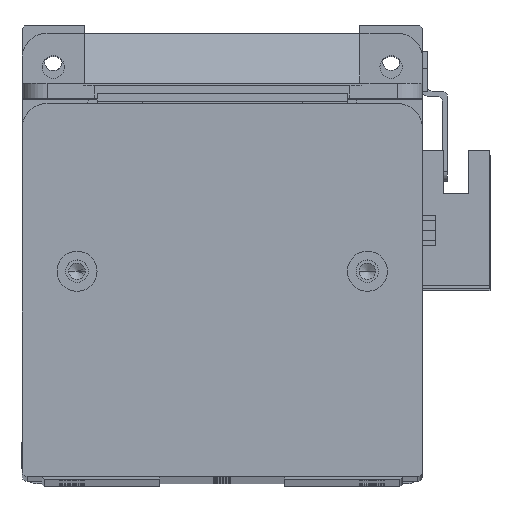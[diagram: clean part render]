
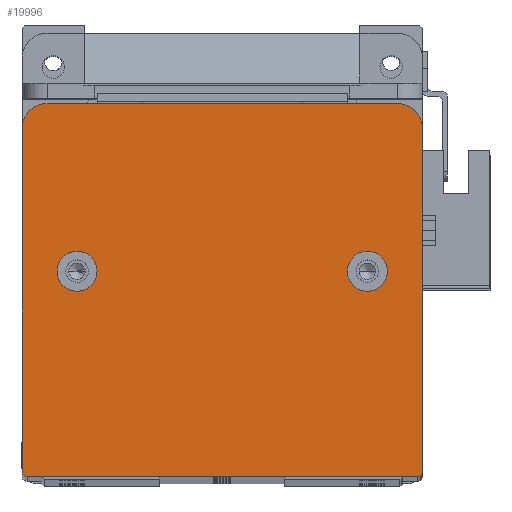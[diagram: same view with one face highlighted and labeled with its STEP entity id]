
A CAD part, top view. The second image highlights one B-rep face of the part: STEP entity #19996.
In plain terms, the highlighted planar face has unit normal (0, 0, 1).
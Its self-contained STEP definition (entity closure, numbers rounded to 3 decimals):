
#42 = DIRECTION ( 'NONE',  ( 0., 1., 0. ) ) ;
#350 = EDGE_CURVE ( 'NONE', #388, #9285, #28633, .T. ) ;
#374 = CARTESIAN_POINT ( 'NONE',  ( 0., 1., 10. ) ) ;
#388 = VERTEX_POINT ( 'NONE', #25939 ) ;
#568 = CIRCLE ( 'NONE', #9394, 4. ) ;
#768 = CIRCLE ( 'NONE', #8534, 5. ) ;
#1017 = CARTESIAN_POINT ( 'NONE',  ( 5., 74.5, 10. ) ) ;
#1295 = EDGE_CURVE ( 'NONE', #6133, #17341, #768, .T. ) ;
#2024 = DIRECTION ( 'NONE',  ( 1., 0., 0. ) ) ;
#2434 = DIRECTION ( 'NONE',  ( 1., 0., 0. ) ) ;
#2742 = DIRECTION ( 'NONE',  ( 0., 0., 1. ) ) ;
#2911 = DIRECTION ( 'NONE',  ( 0., 0., 1. ) ) ;
#3163 = EDGE_CURVE ( 'NONE', #21158, #9783, #13849, .T. ) ;
#3252 = EDGE_LOOP ( 'NONE', ( #11364, #17857, #10456, #4366, #20194, #3582, #3493, #27578 ) ) ;
#3493 = ORIENTED_EDGE ( 'NONE', *, *, #15553, .T. ) ;
#3582 = ORIENTED_EDGE ( 'NONE', *, *, #17875, .T. ) ;
#3694 = CARTESIAN_POINT ( 'NONE',  ( 79., 0., 10. ) ) ;
#4239 = CARTESIAN_POINT ( 'NONE',  ( 80., 1., 10. ) ) ;
#4314 = VERTEX_POINT ( 'NONE', #4239 ) ;
#4366 = ORIENTED_EDGE ( 'NONE', *, *, #1295, .T. ) ;
#4788 = DIRECTION ( 'NONE',  ( 0., -1., 0. ) ) ;
#5376 = CARTESIAN_POINT ( 'NONE',  ( 15., 41., 10. ) ) ;
#6029 = EDGE_CURVE ( 'NONE', #9285, #388, #568, .T. ) ;
#6133 = VERTEX_POINT ( 'NONE', #1017 ) ;
#6320 = ORIENTED_EDGE ( 'NONE', *, *, #6029, .F. ) ;
#6635 = PLANE ( 'NONE',  #20401 ) ;
#6661 = DIRECTION ( 'NONE',  ( 0., 0., 1. ) ) ;
#7307 = FACE_BOUND ( 'NONE', #17351, .T. ) ;
#7373 = FACE_OUTER_BOUND ( 'NONE', #3252, .T. ) ;
#7536 = FACE_BOUND ( 'NONE', #22024, .T. ) ;
#7648 = EDGE_CURVE ( 'NONE', #4314, #21158, #27002, .T. ) ;
#8534 = AXIS2_PLACEMENT_3D ( 'NONE', #9984, #9891, #9678 ) ;
#8676 = CARTESIAN_POINT ( 'NONE',  ( 69., 41., 10. ) ) ;
#8830 = VECTOR ( 'NONE', #4788, 1000. ) ;
#9285 = VERTEX_POINT ( 'NONE', #14934 ) ;
#9394 = AXIS2_PLACEMENT_3D ( 'NONE', #16195, #2911, #18398 ) ;
#9678 = DIRECTION ( 'NONE',  ( 1., 0., 0. ) ) ;
#9754 = DIRECTION ( 'NONE',  ( 0., 0., 1. ) ) ;
#9783 = VERTEX_POINT ( 'NONE', #10444 ) ;
#9891 = DIRECTION ( 'NONE',  ( 0., 0., 1. ) ) ;
#9984 = CARTESIAN_POINT ( 'NONE',  ( 5., 69.5, 10. ) ) ;
#10444 = CARTESIAN_POINT ( 'NONE',  ( 75., 74.5, 10. ) ) ;
#10456 = ORIENTED_EDGE ( 'NONE', *, *, #26363, .T. ) ;
#11085 = CARTESIAN_POINT ( 'NONE',  ( 80., 74.5, 10. ) ) ;
#11126 = DIRECTION ( 'NONE',  ( 0., 0., 1. ) ) ;
#11172 = CARTESIAN_POINT ( 'NONE',  ( 80., 0., 10. ) ) ;
#11293 = CIRCLE ( 'NONE', #15779, 4. ) ;
#11364 = ORIENTED_EDGE ( 'NONE', *, *, #7648, .T. ) ;
#11835 = CARTESIAN_POINT ( 'NONE',  ( 11., 41., 10. ) ) ;
#11921 = CARTESIAN_POINT ( 'NONE',  ( 0., 69.5, 10. ) ) ;
#12239 = VERTEX_POINT ( 'NONE', #24647 ) ;
#12829 = DIRECTION ( 'NONE',  ( 0., 0., 1. ) ) ;
#12836 = ORIENTED_EDGE ( 'NONE', *, *, #350, .F. ) ;
#12905 = DIRECTION ( 'NONE',  ( 1., 0., 0. ) ) ;
#13710 = AXIS2_PLACEMENT_3D ( 'NONE', #8676, #9754, #12905 ) ;
#13849 = CIRCLE ( 'NONE', #26923, 5. ) ;
#13878 = LINE ( 'NONE', #11085, #19009 ) ;
#14091 = DIRECTION ( 'NONE',  ( 1., 0., 0. ) ) ;
#14285 = ORIENTED_EDGE ( 'NONE', *, *, #17326, .F. ) ;
#14722 = LINE ( 'NONE', #15841, #8830 ) ;
#14934 = CARTESIAN_POINT ( 'NONE',  ( 73., 41., 10. ) ) ;
#15064 = AXIS2_PLACEMENT_3D ( 'NONE', #16040, #2742, #18234 ) ;
#15356 = CARTESIAN_POINT ( 'NONE',  ( 80., 69.5, 10. ) ) ;
#15361 = DIRECTION ( 'NONE',  ( 0., 0., 1. ) ) ;
#15553 = EDGE_CURVE ( 'NONE', #18383, #26203, #18545, .T. ) ;
#15779 = AXIS2_PLACEMENT_3D ( 'NONE', #26093, #12829, #28377 ) ;
#15841 = CARTESIAN_POINT ( 'NONE',  ( 0., 74.5, 10. ) ) ;
#16040 = CARTESIAN_POINT ( 'NONE',  ( 1., 1., 10. ) ) ;
#16195 = CARTESIAN_POINT ( 'NONE',  ( 69., 41., 10. ) ) ;
#16612 = EDGE_CURVE ( 'NONE', #26203, #4314, #26790, .T. ) ;
#17326 = EDGE_CURVE ( 'NONE', #12239, #17456, #25677, .T. ) ;
#17341 = VERTEX_POINT ( 'NONE', #11921 ) ;
#17351 = EDGE_LOOP ( 'NONE', ( #26681, #14285 ) ) ;
#17456 = VERTEX_POINT ( 'NONE', #5376 ) ;
#17704 = DIRECTION ( 'NONE',  ( -1., 0., 0. ) ) ;
#17836 = CARTESIAN_POINT ( 'NONE',  ( 0., 0., 10. ) ) ;
#17855 = VERTEX_POINT ( 'NONE', #374 ) ;
#17857 = ORIENTED_EDGE ( 'NONE', *, *, #3163, .T. ) ;
#17875 = EDGE_CURVE ( 'NONE', #17855, #18383, #18041, .T. ) ;
#18041 = CIRCLE ( 'NONE', #15064, 1. ) ;
#18234 = DIRECTION ( 'NONE',  ( 1., 0., 0. ) ) ;
#18383 = VERTEX_POINT ( 'NONE', #20406 ) ;
#18398 = DIRECTION ( 'NONE',  ( 1., 0., 0. ) ) ;
#18466 = VECTOR ( 'NONE', #2434, 1000. ) ;
#18545 = LINE ( 'NONE', #17836, #18466 ) ;
#19009 = VECTOR ( 'NONE', #17704, 1000. ) ;
#19794 = AXIS2_PLACEMENT_3D ( 'NONE', #19873, #6661, #22090 ) ;
#19873 = CARTESIAN_POINT ( 'NONE',  ( 79., 1., 10. ) ) ;
#19996 = ADVANCED_FACE ( 'NONE', ( #7536, #7307, #7373 ), #6635, .T. ) ;
#20194 = ORIENTED_EDGE ( 'NONE', *, *, #24707, .T. ) ;
#20401 = AXIS2_PLACEMENT_3D ( 'NONE', #24354, #11126, #26560 ) ;
#20406 = CARTESIAN_POINT ( 'NONE',  ( 1., 0., 10. ) ) ;
#21158 = VERTEX_POINT ( 'NONE', #15356 ) ;
#22024 = EDGE_LOOP ( 'NONE', ( #6320, #12836 ) ) ;
#22090 = DIRECTION ( 'NONE',  ( 1., 0., 0. ) ) ;
#24354 = CARTESIAN_POINT ( 'NONE',  ( 0., 0., 10. ) ) ;
#24473 = EDGE_CURVE ( 'NONE', #17456, #12239, #11293, .T. ) ;
#24647 = CARTESIAN_POINT ( 'NONE',  ( 7., 41., 10. ) ) ;
#24707 = EDGE_CURVE ( 'NONE', #17341, #17855, #14722, .T. ) ;
#25588 = AXIS2_PLACEMENT_3D ( 'NONE', #11835, #27348, #14091 ) ;
#25677 = CIRCLE ( 'NONE', #25588, 4. ) ;
#25939 = CARTESIAN_POINT ( 'NONE',  ( 65., 41., 10. ) ) ;
#26093 = CARTESIAN_POINT ( 'NONE',  ( 11., 41., 10. ) ) ;
#26203 = VERTEX_POINT ( 'NONE', #3694 ) ;
#26363 = EDGE_CURVE ( 'NONE', #9783, #6133, #13878, .T. ) ;
#26560 = DIRECTION ( 'NONE',  ( 1., 0., 0. ) ) ;
#26681 = ORIENTED_EDGE ( 'NONE', *, *, #24473, .F. ) ;
#26790 = CIRCLE ( 'NONE', #19794, 1. ) ;
#26923 = AXIS2_PLACEMENT_3D ( 'NONE', #28644, #15361, #2024 ) ;
#26970 = VECTOR ( 'NONE', #42, 1000. ) ;
#27002 = LINE ( 'NONE', #11172, #26970 ) ;
#27348 = DIRECTION ( 'NONE',  ( 0., 0., 1. ) ) ;
#27578 = ORIENTED_EDGE ( 'NONE', *, *, #16612, .T. ) ;
#28377 = DIRECTION ( 'NONE',  ( 1., 0., 0. ) ) ;
#28633 = CIRCLE ( 'NONE', #13710, 4. ) ;
#28644 = CARTESIAN_POINT ( 'NONE',  ( 75., 69.5, 10. ) ) ;
